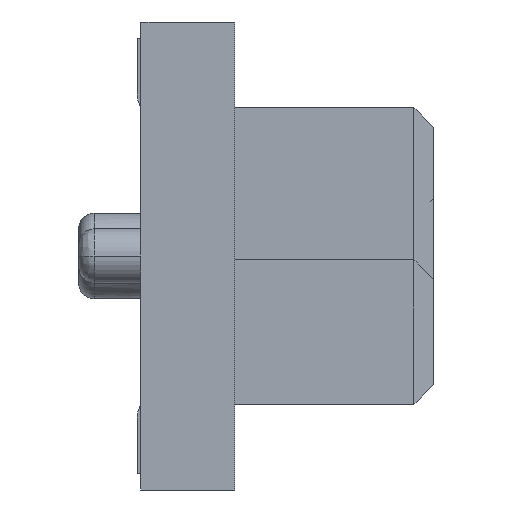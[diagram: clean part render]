
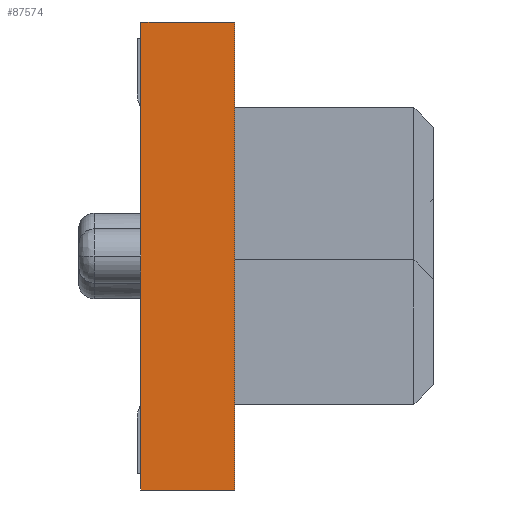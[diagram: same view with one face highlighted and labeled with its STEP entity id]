
A CAD part, front view. The second image highlights one B-rep face of the part: STEP entity #87574.
In plain terms, the highlighted planar face has unit normal (0, -1, 0).
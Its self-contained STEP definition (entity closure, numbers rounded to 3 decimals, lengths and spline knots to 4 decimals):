
#3596=DIRECTION('',(0.,0.,-1.));
#3597=VECTOR('',#3596,6.);
#3598=CARTESIAN_POINT('',(0.8,16.,0.));
#3599=LINE('',#3598,#3597);
#11994=DIRECTION('',(1.,0.,0.));
#11995=VECTOR('',#11994,1.2);
#11996=CARTESIAN_POINT('',(0.8,16.,-6.));
#11997=LINE('',#11996,#11995);
#12010=DIRECTION('',(0.,0.,1.));
#12011=VECTOR('',#12010,6.);
#12012=CARTESIAN_POINT('',(2.,16.,-6.));
#12013=LINE('',#12012,#12011);
#12038=DIRECTION('',(-1.,0.,0.));
#12039=VECTOR('',#12038,1.2);
#12040=CARTESIAN_POINT('',(2.,16.,0.));
#12041=LINE('',#12040,#12039);
#62506=CARTESIAN_POINT('',(0.8,16.,0.));
#62507=VERTEX_POINT('',#62506);
#62508=CARTESIAN_POINT('',(0.8,16.,-6.));
#62509=VERTEX_POINT('',#62508);
#62526=CARTESIAN_POINT('',(2.,16.,0.));
#62527=VERTEX_POINT('',#62526);
#62532=CARTESIAN_POINT('',(2.,16.,-6.));
#62533=VERTEX_POINT('',#62532);
#87562=CARTESIAN_POINT('',(1.4,16.,-3.));
#87563=DIRECTION('',(0.,1.,0.));
#87564=DIRECTION('',(0.,0.,-1.));
#87565=AXIS2_PLACEMENT_3D('',#87562,#87563,#87564);
#87566=PLANE('',#87565);
#87567=ORIENTED_EDGE('',*,*,#72411,.F.);
#87569=ORIENTED_EDGE('',*,*,#87568,.F.);
#87570=ORIENTED_EDGE('',*,*,#87545,.F.);
#87571=ORIENTED_EDGE('',*,*,#87518,.F.);
#87572=EDGE_LOOP('',(#87567,#87569,#87570,#87571));
#87573=FACE_OUTER_BOUND('',#87572,.F.);
#72411=EDGE_CURVE('',#62507,#62509,#3599,.T.);
#87518=EDGE_CURVE('',#62509,#62533,#11997,.T.);
#87545=EDGE_CURVE('',#62533,#62527,#12013,.T.);
#87568=EDGE_CURVE('',#62527,#62507,#12041,.T.);
#87574=ADVANCED_FACE('',(#87573),#87566,.F.);
